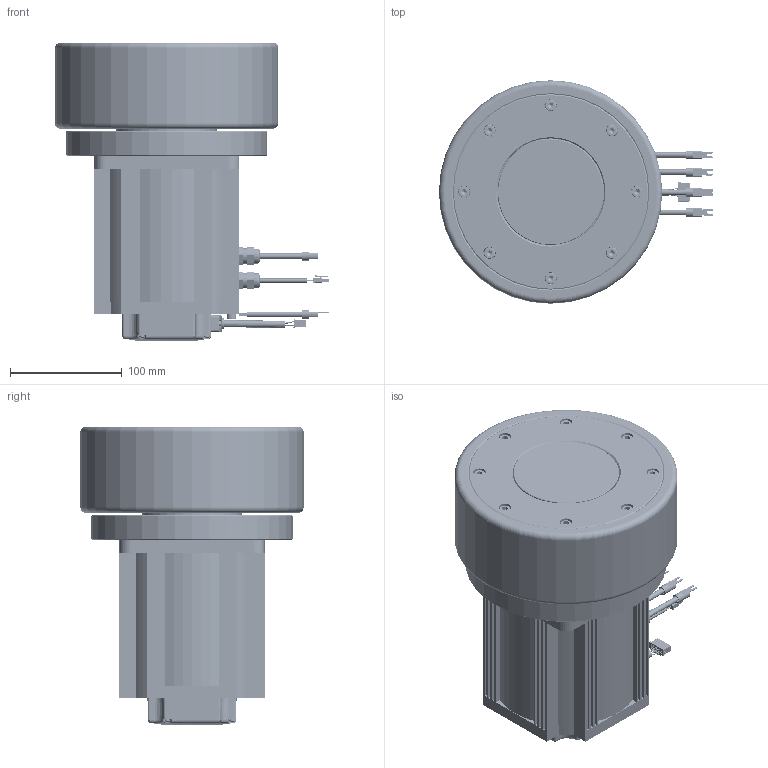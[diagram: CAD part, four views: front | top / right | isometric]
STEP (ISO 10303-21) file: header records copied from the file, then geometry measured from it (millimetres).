
FILE_DESCRIPTION((''),'2;1');
FILE_NAME('MSD200-32-130-30GSL-B_ASM','2026-06-04T11:18:07',('MS28159'),(''),'CREO PARAMETRIC BY PTC INC, 2018100','CREO PARAMETRIC BY PTC INC, 2018100','');
FILE_SCHEMA(('CONFIG_CONTROL_DESIGN'));
Products named in the file (47): HEXAGON_SOCKET_HEAD_CAP_SCREWS_; SINGLE_COIL_LOCK_WASHERS_LIGHT_; AEQ-145N-032-15-22-1_X2_6A21578; AEQ-145-H77-W200_1; AEQ-145-L2-15-22-1-H77-W200_ASM_ASM; AEQ-145N-020-15-22-1-H77-W200_A_ASM; 4611170005762-130SVE04302-1500B_ASM; M5-6-SOLID1_1; M10_MM-8-20-2-SOLI0002_1; _7-SOLID1_100_1; _1-SOLID1_10_1; _1-SOLID2_100_1; M10_MM-8-20-3-SOLI0002_1; 4619121305633-1-SOLID1_1_1; 463414020-1-SOLID1000_1; M5-2-SOLID1_1; _1-SOLID1_10002_1; _9-SOLID100_1; _1-SOLID1_100_1-20153; NONE-23065_1; NONE-25660_1; AGV-1-SOLID10001_1; 3698154000285__10001_1; M5-4-SOLID1_1; 5016461600-1-SOLID1_1_1; _8-SOLID100_1; DEEP_GROOVE_BALL_BEARINGS_GB__1; M5-11-SOLID1_1; M5-3-SOLID1_1; 8-1-SOLID1000_1; NONE-48818_1; M10_MM-8-20-1-SOLI0002_1; NONE-54887_1; _1-SOLID1_100_1-62924; _4-SOLID1_100_1; _1-SOLID1_100_1-65468; M5-12-SOLID1_1; M5-1-SOLID1_1_1; NONE-67093_1; _1-SOLID1_100_1-72967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
Assembly tree (60 placements, depth 5):
  MSD200-32-130-30GSL-B_ASM
    4611170005762-130SVE04302-1500B_ASM
      AEQ-145N-020-15-22-1-H77-W200_A_ASM
        AEQ-145-L2-15-22-1-H77-W200_ASM_ASM
          HEXAGON_SOCKET_HEAD_CAP_SCREWS_  x8
          SINGLE_COIL_LOCK_WASHERS_LIGHT_  x8
          AEQ-145N-032-15-22-1_X2_6A21578
          AEQ-145-H77-W200_1
    130SVE04302-1300G_ASM
      4611170005761_A0_ASM_1_ASM
        4611170005761_A0_1_ASM_1_ASM
          M5-6-SOLID1_1
          M10_MM-8-20-2-SOLI0002_1
          _7-SOLID1_100_1
          _1-SOLID1_10_1
          _1-SOLID2_100_1
          M10_MM-8-20-3-SOLI0002_1
          4619121305633-1-SOLID1_1_1
          463414020-1-SOLID1000_1
          M5-2-SOLID1_1
          _1-SOLID1_10002_1
          _9-SOLID100_1
          _1-SOLID1_100_1-20153
          NONE-23065_1
          NONE-25660_1
          AGV-1-SOLID10001_1
          3698154000285__10001_1
          M5-4-SOLID1_1
          5016461600-1-SOLID1_1_1
          _8-SOLID100_1
          DEEP_GROOVE_BALL_BEARINGS_GB__1
          M5-11-SOLID1_1
          M5-3-SOLID1_1
          8-1-SOLID1000_1
          NONE-48818_1
          M10_MM-8-20-1-SOLI0002_1
          NONE-54887_1
          _1-SOLID1_100_1-62924
          _4-SOLID1_100_1
          _1-SOLID1_100_1-65468
          M5-12-SOLID1_1
          M5-1-SOLID1_1_1
          NONE-67093_1
          _1-SOLID1_100_1-72967
          M5-10-SOLID1_1
          M5-5-SOLID1_1
          NONE-73494_1
Bounding box: 245.5 x 200 x 267.3 mm (x, y, z)
Volume: 3671387.5 mm3; surface area: 611281.7 mm2
Topology: 54 solids, 60 shells, 4481 faces, 10585 edges, 6260 vertices
Faces by surface type: plane 1444, cone 1399, cylinder 1277, torus 249, bspline 50, sphere 48, extrusion 14
Entity records: 89876 total; most frequent: CARTESIAN_POINT 22540, DIRECTION 14253, ORIENTED_EDGE 13722, EDGE_CURVE 6861, AXIS2_PLACEMENT_3D 5253, VERTEX_POINT 4377, VECTOR 3747, LINE 3733
